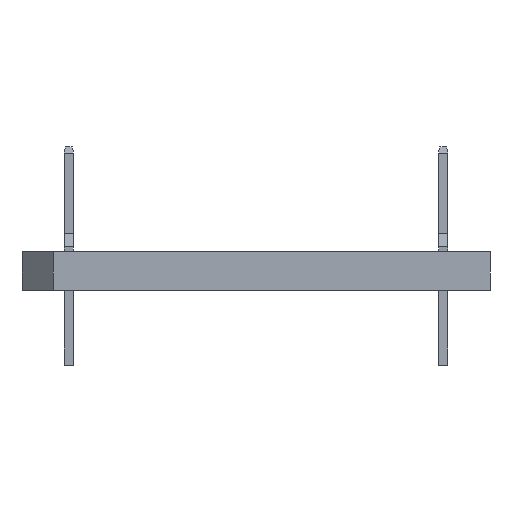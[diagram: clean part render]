
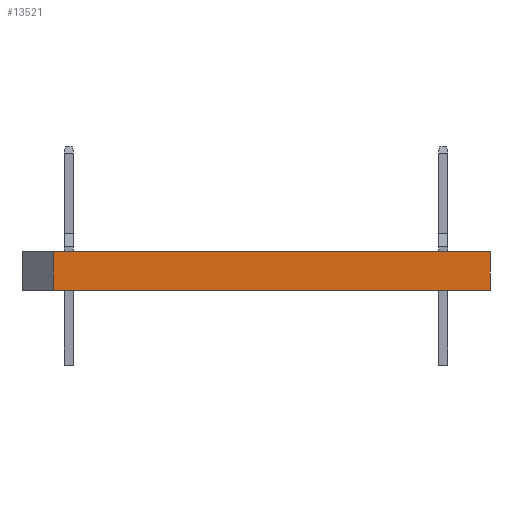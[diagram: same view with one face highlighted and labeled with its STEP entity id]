
A CAD part, left-side view. The second image highlights one B-rep face of the part: STEP entity #13521.
In plain terms, the highlighted planar face has unit normal (-1, 0, 0).
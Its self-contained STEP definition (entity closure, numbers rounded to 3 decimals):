
#735=FACE_OUTER_BOUND($,#1366,.T.);
#1366=EDGE_LOOP($,(#11855,#11856,#11857,#11858));
#1762=LINE($,#18047,#3457);
#1848=LINE($,#18277,#3543);
#3253=LINE($,#21271,#4948);
#3254=LINE($,#21273,#4949);
#3457=VECTOR($,#14647,17.78);
#3543=VECTOR($,#14791,17.78);
#4948=VECTOR($,#17538,1.575);
#4949=VECTOR($,#17541,1.575);
#5173=VERTEX_POINT($,#18039);
#5176=VERTEX_POINT($,#18045);
#5289=VERTEX_POINT($,#18273);
#5291=VERTEX_POINT($,#18276);
#6458=EDGE_CURVE($,#5173,#5176,#1762,.T.);
#6572=EDGE_CURVE($,#5289,#5291,#1848,.T.);
#8093=EDGE_CURVE($,#5173,#5289,#3253,.T.);
#8094=EDGE_CURVE($,#5176,#5291,#3254,.T.);
#11855=ORIENTED_EDGE($,*,*,#8093,.F.);
#11856=ORIENTED_EDGE($,*,*,#6458,.T.);
#11857=ORIENTED_EDGE($,*,*,#8094,.T.);
#11858=ORIENTED_EDGE($,*,*,#6572,.F.);
#12354=PLANE($,#14299);
#13521=ADVANCED_FACE($,(#735),#12354,.T.);
#14299=AXIS2_PLACEMENT_3D($,#21272,#17539,#17540);
#14647=DIRECTION($,(0.,-1.,0.));
#14791=DIRECTION($,(0.,-1.,0.));
#17538=DIRECTION($,(0.,0.,1.));
#17539=DIRECTION('center_axis',(-1.,0.,0.));
#17540=DIRECTION('ref_axis',(0.,-1.,0.));
#17541=DIRECTION($,(0.,0.,1.));
#18039=CARTESIAN_POINT('',(-37.05,-15.232,5.924));
#18045=CARTESIAN_POINT('',(-37.05,-33.012,5.924));
#18047=CARTESIAN_POINT($,(-37.05,-13.962,5.924));
#18273=CARTESIAN_POINT('',(-37.05,-15.232,7.499));
#18276=CARTESIAN_POINT('',(-37.05,-33.012,7.499));
#18277=CARTESIAN_POINT($,(-37.05,-13.962,7.499));
#21271=CARTESIAN_POINT($,(-37.05,-15.232,5.924));
#21272=CARTESIAN_POINT('Origin',(-37.05,-13.962,5.924));
#21273=CARTESIAN_POINT($,(-37.05,-33.012,5.924));
